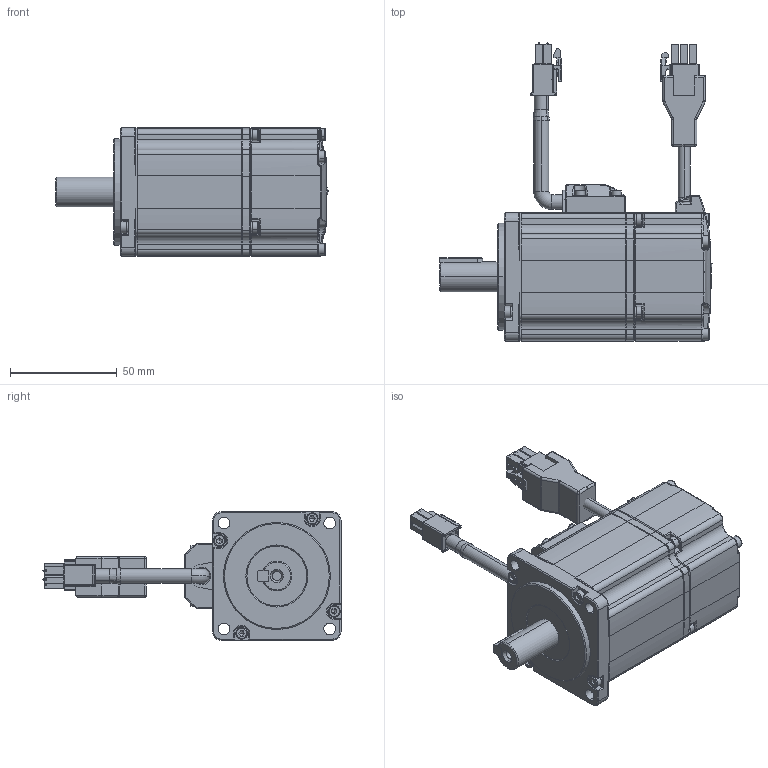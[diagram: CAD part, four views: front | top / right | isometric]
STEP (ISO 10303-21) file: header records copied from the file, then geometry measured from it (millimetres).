
FILE_DESCRIPTION (( 'STEP AP203' ), '1' );
FILE_NAME ('EM3A02A-100-A2-S（永磁交流伺服电机）.STEP', '2018-12-18T02:55:01', ( '' ), ( '' ), 'SwSTEP 2.0', 'SolidWorks 2016', '' );
FILE_SCHEMA (( 'CONFIG_CONTROL_DESIGN' ));
Length unit declared in the file: millimetre
Products named in the file (1): EM3A02A-100-A2-S（永磁交流伺服电机）
Bounding box: 127.29 x 139.42 x 60.05 mm (x, y, z)
Surface area: 48372.5 mm2 (no closed solid volume)
Topology: 0 solids, 64 shells, 1356 faces, 3894 edges, 2498 vertices
Faces by surface type: plane 501, cylinder 438, cone 143, torus 139, bspline 92, sphere 43
Entity records: 45573 total; most frequent: CARTESIAN_POINT 11194, DIRECTION 7339, ORIENTED_EDGE 6582, EDGE_CURVE 3833, AXIS2_PLACEMENT_3D 2697, VERTEX_POINT 2498, VECTOR 1945, LINE 1945
